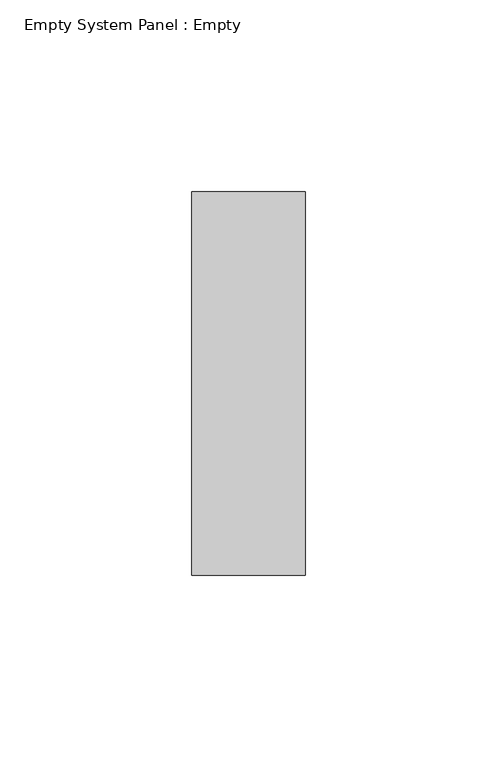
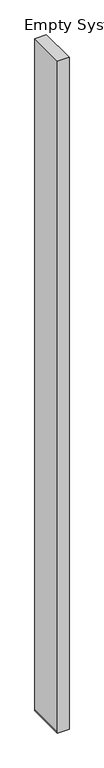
"""IFC4 building model written with IfcOpenShell, lengths in millimetres: plate geometry, Empty System Panel : Empty."""

from ifc_helpers import new_model, si_unit, frame, origin, place, context, project, spatial, polyline, outline, extrude, source, transform, mapped, element, save


def empty_system_panel_empty_514cd41a(model_context):
    return source(origin(), model_context, "Body", "SweptSolid", [
        extrude(outline(polyline([(0.0, -14.8128455), (0.0, 14.8128455), (3.6515825, 14.8128455), (1816.5890825, 14.8128455), (1816.5890825, -14.8128455), (3.6515825, -14.8128455), (0.0, -14.8128455)])), frame((0.0, 50.0, 0.0), z_axis=(0.0, 1.0, 0.0), x_axis=(0.0, 0.0, 1.0)), (0.0, 0.0, 1.0), 100.0),
    ])


if __name__ == "__main__":
    model = new_model("IFC4")
    model_context = context("Model", 3, world=origin())
    ifc_project = project(units=[si_unit("LENGTHUNIT", "METRE", prefix="MILLI")], contexts=[model_context])
    site = spatial("IfcSite", under=ifc_project)
    building = spatial("IfcBuilding", under=site)
    placement = place(None, origin())
    empty_system_panel_empty_shape = empty_system_panel_empty_514cd41a(model_context)
    element("IfcPlate", 1, ObjectType="Empty System Panel : Empty", at=placement, inside=building, context=model_context, shape_type="MappedRepresentation", body=[
        mapped(empty_system_panel_empty_shape, transform((0.0, 0.0, 0.0), x_axis=(1.0, 0.0, 0.0), y_axis=(0.0, 1.0, 0.0), z_axis=(0.0, 0.0, 1.0))),
    ])
    save(model, "model.ifc")
